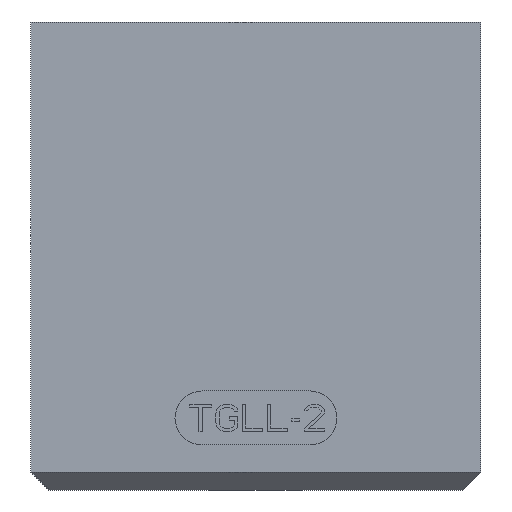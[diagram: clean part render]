
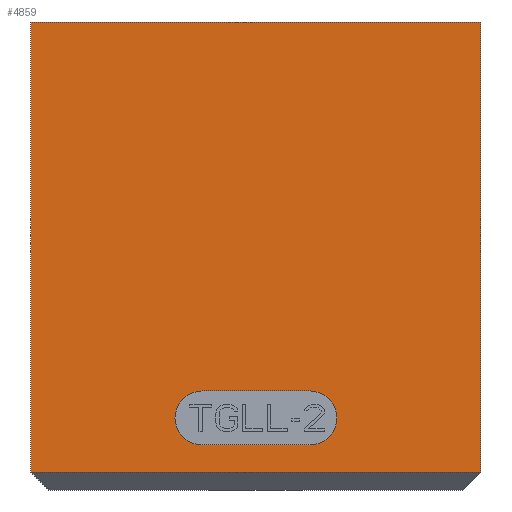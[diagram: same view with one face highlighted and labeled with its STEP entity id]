
A CAD part, front view. The second image highlights one B-rep face of the part: STEP entity #4859.
In plain terms, the highlighted planar face has unit normal (0, -1, 0).
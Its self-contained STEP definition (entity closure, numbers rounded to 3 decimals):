
#243=DIRECTION('',(1.,0.,0.));
#244=VECTOR('',#243,25.);
#245=CARTESIAN_POINT('',(-3.2,-5.,10.5));
#246=LINE('',#245,#244);
#308=DIRECTION('',(0.,0.,1.));
#309=VECTOR('',#308,25.);
#310=CARTESIAN_POINT('',(21.8,-5.,-14.5));
#311=LINE('',#310,#309);
#439=DIRECTION('',(-1.,0.,0.));
#440=VECTOR('',#439,25.);
#441=CARTESIAN_POINT('',(21.8,-5.,-14.5));
#442=LINE('',#441,#440);
#446=DIRECTION('',(0.,0.,1.));
#447=VECTOR('',#446,25.);
#448=CARTESIAN_POINT('',(-3.2,-5.,-14.5));
#449=LINE('',#448,#447);
#453=CARTESIAN_POINT('',(6.3,-5.,-11.5));
#454=DIRECTION('',(0.,-1.,0.));
#455=DIRECTION('',(0.,0.,1.));
#456=AXIS2_PLACEMENT_3D('',#453,#454,#455);
#461=DIRECTION('',(1.,0.,0.));
#462=VECTOR('',#461,6.);
#463=CARTESIAN_POINT('',(6.3,-5.,-13.));
#464=LINE('',#463,#462);
#468=CARTESIAN_POINT('',(12.3,-5.,-11.5));
#469=DIRECTION('',(0.,-1.,0.));
#470=DIRECTION('',(0.,0.,-1.));
#471=AXIS2_PLACEMENT_3D('',#468,#469,#470);
#476=DIRECTION('',(-1.,0.,0.));
#477=VECTOR('',#476,6.);
#478=CARTESIAN_POINT('',(12.3,-5.,-10.));
#479=LINE('',#478,#477);
#3625=CARTESIAN_POINT('',(-3.2,-5.,10.5));
#3627=VERTEX_POINT('',#3625);
#3628=CARTESIAN_POINT('',(21.8,-5.,10.5));
#3629=VERTEX_POINT('',#3628);
#3654=CARTESIAN_POINT('',(-3.2,-5.,-14.5));
#3655=VERTEX_POINT('',#3654);
#3660=CARTESIAN_POINT('',(21.8,-5.,-14.5));
#3661=VERTEX_POINT('',#3660);
#3692=CARTESIAN_POINT('',(6.3,-5.,-10.));
#3693=CARTESIAN_POINT('',(6.3,-5.,-13.));
#3694=VERTEX_POINT('',#3692);
#3695=VERTEX_POINT('',#3693);
#3696=CARTESIAN_POINT('',(12.3,-5.,-13.));
#3697=VERTEX_POINT('',#3696);
#3698=CARTESIAN_POINT('',(12.3,-5.,-10.));
#3699=VERTEX_POINT('',#3698);
#4838=CARTESIAN_POINT('',(-3.2,-5.,-15.5));
#4839=DIRECTION('',(0.,-1.,0.));
#4840=DIRECTION('',(1.,0.,0.));
#4841=AXIS2_PLACEMENT_3D('',#4838,#4839,#4840);
#4842=PLANE('',#4841);
#4843=ORIENTED_EDGE('',*,*,#4832,.T.);
#4844=ORIENTED_EDGE('',*,*,#4807,.T.);
#4845=ORIENTED_EDGE('',*,*,#4697,.T.);
#4846=ORIENTED_EDGE('',*,*,#4719,.F.);
#4847=EDGE_LOOP('',(#4843,#4844,#4845,#4846));
#4848=FACE_OUTER_BOUND('',#4847,.F.);
#4850=ORIENTED_EDGE('',*,*,#4849,.T.);
#4852=ORIENTED_EDGE('',*,*,#4851,.T.);
#4854=ORIENTED_EDGE('',*,*,#4853,.T.);
#4856=ORIENTED_EDGE('',*,*,#4855,.T.);
#4857=EDGE_LOOP('',(#4850,#4852,#4854,#4856));
#4858=FACE_BOUND('',#4857,.F.);
#457=CIRCLE('',#456,1.5);
#472=CIRCLE('',#471,1.5);
#4697=EDGE_CURVE('',#3627,#3629,#246,.T.);
#4719=EDGE_CURVE('',#3661,#3629,#311,.T.);
#4807=EDGE_CURVE('',#3655,#3627,#449,.T.);
#4832=EDGE_CURVE('',#3661,#3655,#442,.T.);
#4849=EDGE_CURVE('',#3694,#3695,#457,.T.);
#4851=EDGE_CURVE('',#3695,#3697,#464,.T.);
#4853=EDGE_CURVE('',#3697,#3699,#472,.T.);
#4855=EDGE_CURVE('',#3699,#3694,#479,.T.);
#4859=ADVANCED_FACE('',(#4848,#4858),#4842,.T.);
